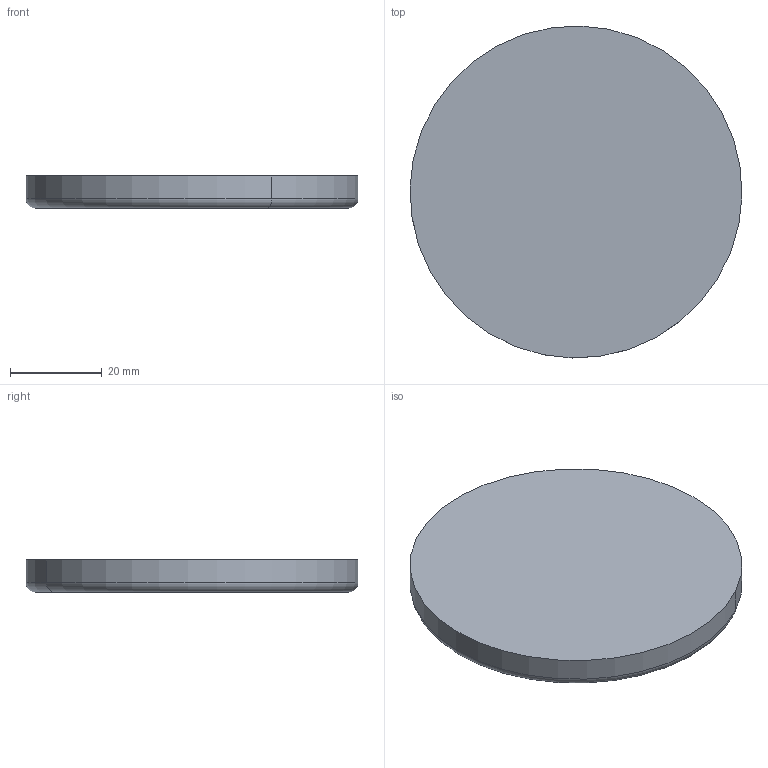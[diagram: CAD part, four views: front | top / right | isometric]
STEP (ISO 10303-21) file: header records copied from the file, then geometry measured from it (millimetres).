
FILE_DESCRIPTION(('CATIA V5 STEP Exchange'),'2;1');
FILE_NAME('X:\CODICI MOVEX\3D per clienti\3D definitivi\Part 900\P99604_01.stp','2016-07-19T13:36:13+00:00',('none'),('none'),'Version 5-6 Release 2012','CATIA V5 STEP AP203','none');
FILE_SCHEMA(('CONFIG_CONTROL_DESIGN'));
Length unit declared in the file: millimetre
Products named in the file (1): P99604_01
Bounding box: 72.48 x 72.48 x 7 mm (x, y, z)
Volume: 28475.5 mm3; surface area: 9709.6 mm2
Topology: 1 solids, 1 shells, 446 faces, 1306 edges, 870 vertices
Faces by surface type: plane 440, cylinder 4, torus 2
Entity records: 14386 total; most frequent: ORIENTED_EDGE 2612, CARTESIAN_POINT 2597, DIRECTION 2146, EDGE_CURVE 1306, VECTOR 1294, LINE 1294, VERTEX_POINT 870, EDGE_LOOP 454
